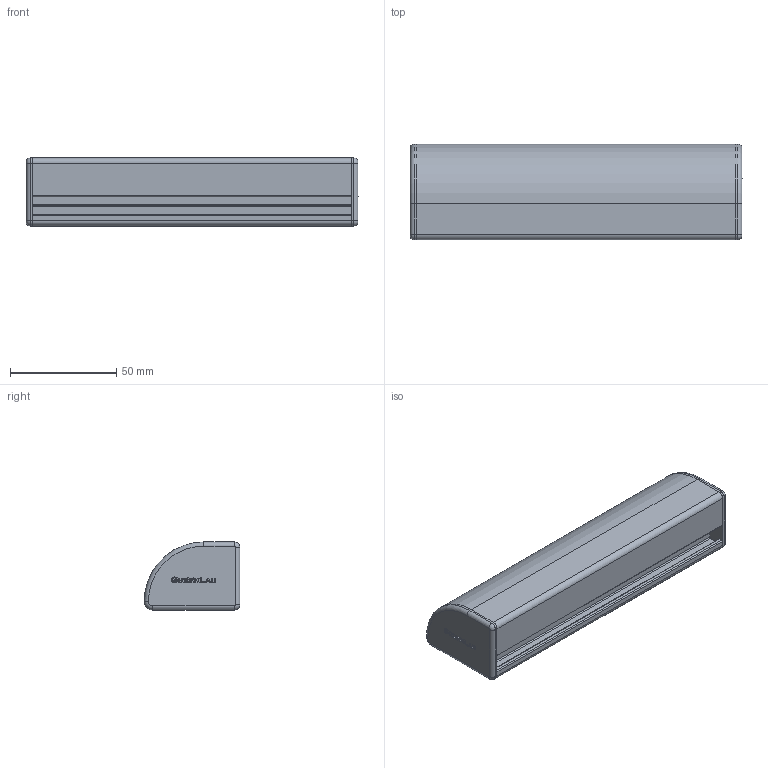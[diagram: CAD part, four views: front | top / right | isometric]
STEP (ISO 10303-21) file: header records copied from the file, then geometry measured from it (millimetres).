
FILE_DESCRIPTION (( 'STEP AP214' ), '1' );
FILE_NAME ('1.4017 Kahvaprofiili 150 päätysuojilla.STEP', '2025-09-10T11:00:31', ( '' ), ( '' ), 'SwSTEP 2.0', 'SolidWorks 2025', '' );
FILE_SCHEMA (( 'AUTOMOTIVE_DESIGN' ));
Length unit declared in the file: millimetre
Products named in the file (1): 1.4017 Kahvaprofiili 150 päätysuojilla
Bounding box: 156 x 45 x 32 mm (x, y, z)
Volume: 56799.7 mm3; surface area: 45057 mm2
Topology: 3 solids, 3 shells, 520 faces, 1456 edges, 966 vertices
Faces by surface type: plane 306, bspline 170, cylinder 36, torus 8
Entity records: 27155 total; most frequent: CARTESIAN_POINT 9577, ORIENTED_EDGE 2912, DIRECTION 1900, EDGE_CURVE 1456, VECTOR 1034, LINE 1034, VERTEX_POINT 966, EDGE_LOOP 546
